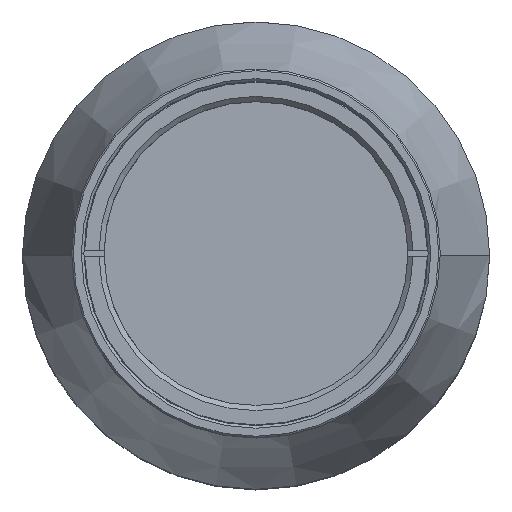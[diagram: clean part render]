
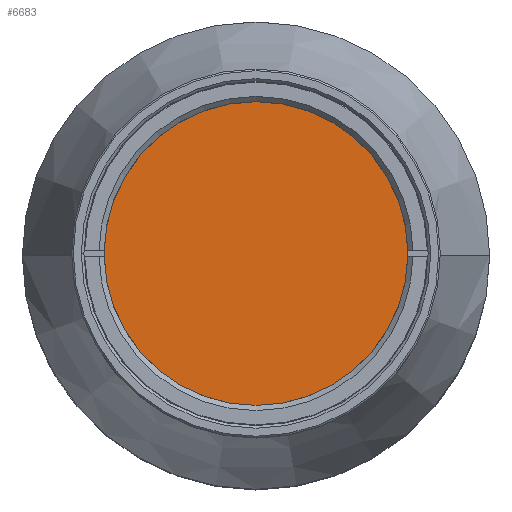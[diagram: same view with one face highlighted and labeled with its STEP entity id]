
A CAD part, top view. The second image highlights one B-rep face of the part: STEP entity #6683.
In plain terms, the highlighted planar face has unit normal (0, 0, 1).
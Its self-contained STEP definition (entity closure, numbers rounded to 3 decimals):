
#463 = DIRECTION ( 'NONE',  ( -1., 0., 0. ) ) ;
#524 = CARTESIAN_POINT ( 'NONE',  ( 29.35, 0., 82.517 ) ) ;
#682 = CARTESIAN_POINT ( 'NONE',  ( 0., 0., 82.517 ) ) ;
#1936 = CIRCLE ( 'NONE', #14413, 29.35 ) ;
#2473 = DIRECTION ( 'NONE',  ( 1., 0., 0. ) ) ;
#5808 = DIRECTION ( 'NONE',  ( 0., 0., 1. ) ) ;
#5933 = CARTESIAN_POINT ( 'NONE',  ( -29.35, 0., 82.517 ) ) ;
#6460 = CIRCLE ( 'NONE', #13167, 29.35 ) ;
#6683 = ADVANCED_FACE ( 'NONE', ( #19380 ), #14895, .F. ) ;
#8185 = DIRECTION ( 'NONE',  ( 0., 0., -1. ) ) ;
#9789 = VERTEX_POINT ( 'NONE', #524 ) ;
#11336 = EDGE_CURVE ( 'NONE', #9789, #22109, #1936, .T. ) ;
#12879 = DIRECTION ( 'NONE',  ( 0., 0., 1. ) ) ;
#13167 = AXIS2_PLACEMENT_3D ( 'NONE', #16117, #5808, #17782 ) ;
#14413 = AXIS2_PLACEMENT_3D ( 'NONE', #682, #12879, #2473 ) ;
#14895 = PLANE ( 'NONE',  #21472 ) ;
#16117 = CARTESIAN_POINT ( 'NONE',  ( 0., 0., 82.517 ) ) ;
#17293 = ORIENTED_EDGE ( 'NONE', *, *, #11336, .T. ) ;
#17486 = EDGE_CURVE ( 'NONE', #22109, #9789, #6460, .T. ) ;
#17561 = EDGE_LOOP ( 'NONE', ( #18211, #17293 ) ) ;
#17782 = DIRECTION ( 'NONE',  ( 1., 0., 0. ) ) ;
#18211 = ORIENTED_EDGE ( 'NONE', *, *, #17486, .T. ) ;
#19380 = FACE_OUTER_BOUND ( 'NONE', #17561, .T. ) ;
#19987 = CARTESIAN_POINT ( 'NONE',  ( 0., 29.35, 82.517 ) ) ;
#21472 = AXIS2_PLACEMENT_3D ( 'NONE', #19987, #8185, #463 ) ;
#22109 = VERTEX_POINT ( 'NONE', #5933 ) ;
